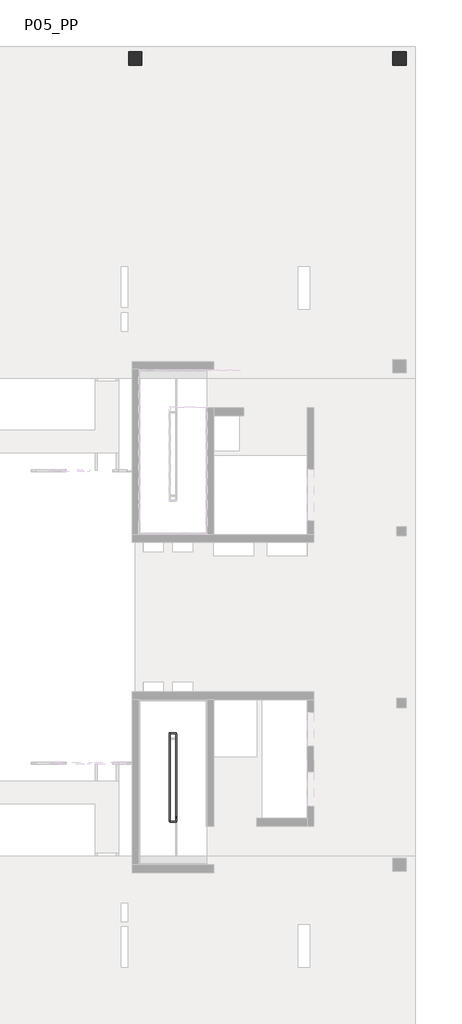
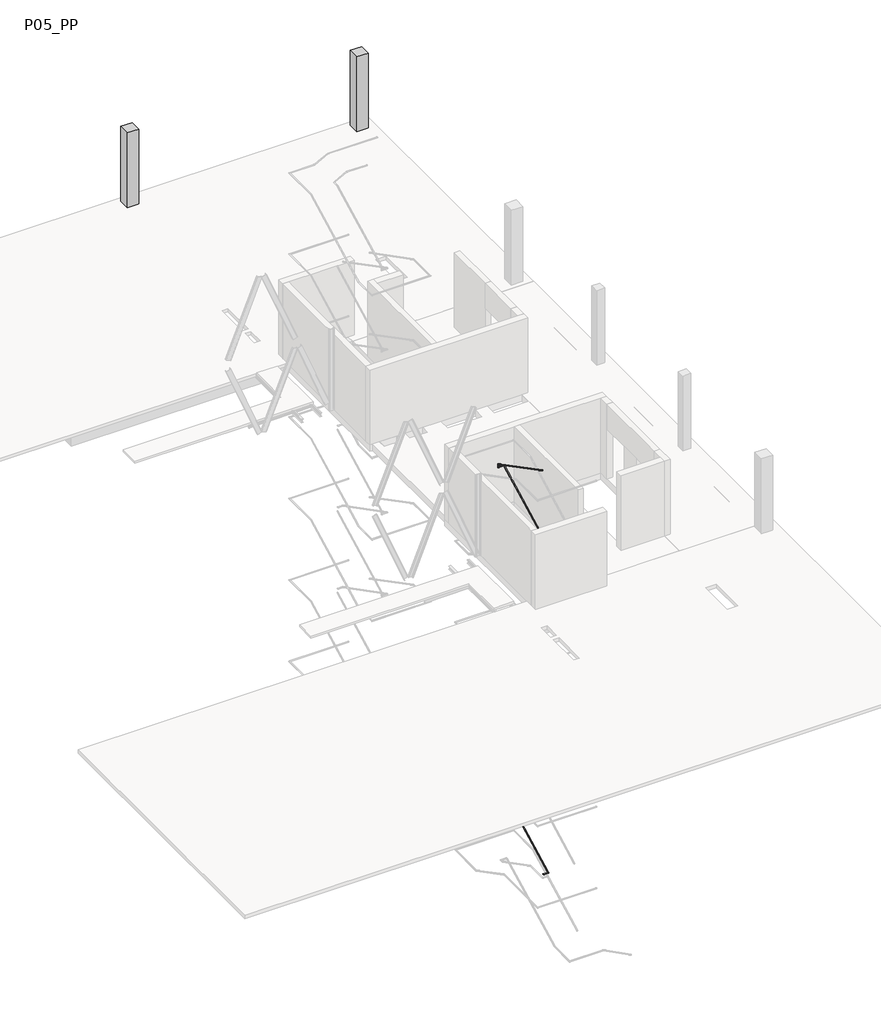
# One storey, part 4 of 7: 7 beams, 2 columns, 1 railing.
"""IFC4 building model written with IfcOpenShell, lengths in millimetres."""

from ifc_helpers import new_model, si_unit, frame, origin, place, context, project, spatial, polyline, circle_curve, ellipse_curve, outline, extrude, faceted_brep, element, save
from ifc_brep_helpers import plane_surface, cylinder_surface, advanced_brep

model = new_model("IFC4")

# Units and contexts
model_context = context("Model", 3, world=origin())
ifc_project = project(units=[si_unit("LENGTHUNIT", "METRE", prefix="MILLI")], contexts=[model_context])

# Site, building, storey
site = spatial("IfcSite", under=ifc_project)
building = spatial("IfcBuilding", under=site)
storey = spatial("IfcBuildingStorey", under=building, Name="P05_PP", Elevation=26160.0)

# Beams
placement = place(None, origin())
element("IfcBeam", 1, ObjectType="M_Concrete-Rectangular Beam : 1640 x 550mm", at=placement, inside=storey, context=model_context, shape_type="Brep", body=[
    faceted_brep([(-4553.6343046, 26089.4144807, 25610.0), (-4553.6343046, 24589.4144807, 25610.0), (-4553.6343046, 15039.4134441, 25610.0), (-4553.6343046, 15039.4134441, 26010.0), (-4553.6343046, 24589.4144807, 26010.0), (-4553.6343046, 26089.4144807, 26010.0), (-2913.6343046, 15039.4134441, 25610.0), (-2913.6343046, 26089.4144807, 25610.0), (-3266.6679368, 25389.4709171, 25610.0), (-3266.6679366, 25889.4709171, 25610.0), (-3766.6679366, 25889.4709173, 25610.0), (-3766.6679368, 25389.4709173, 25610.0), (-2913.6343046, 26089.4144807, 26010.0), (-2913.6343046, 15039.4134441, 26010.0), (-3266.6679368, 25389.4709171, 25860.0), (-3266.6679366, 25889.4709171, 25860.0), (-3766.6679368, 25389.4709173, 25860.0), (-3766.6679366, 25889.4709173, 25860.0)], [[[0, 1, 2, 3, 4, 5]], [[6, 2, 1, 0, 7], [8, 9, 10, 11]], [[6, 7, 12, 13]], [[2, 6, 13, 3]], [[7, 0, 5, 12]], [[14, 15, 9, 8]], [[16, 14, 8, 11]], [[17, 16, 11, 10]], [[15, 17, 10, 9]], [[15, 14, 16, 17]], [[5, 4, 3, 13, 12]]]),
])
element("IfcBeam", 2, ObjectType="M_Concrete-Rectangular Beam : 400 x 550mm", at=placement, inside=storey, context=model_context, shape_type="SweptSolid", body=[
    extrude(outline(polyline([(-14149.604161, 15039.4134441), (-14549.604161, 15039.4134441), (-14549.604161, 24589.4144807), (-14149.604161, 24589.4144807), (-14149.604161, 15039.4134441)])), frame((0.0, 0.0, 25610.0), z_axis=(0.0, 0.0, 1.0), x_axis=(1.0, 0.0, 0.0)), (0.0, 0.0, 1.0), 400.0),
])
element("IfcBeam", 3, ObjectType="M_Concrete-Rectangular Beam : 400 x 550mm", at=placement, inside=storey, context=model_context, shape_type="SweptSolid", body=[
    extrude(outline(polyline([(-12482.9374977, 15039.4134441), (-12882.9374977, 15039.4134441), (-12882.9374977, 24589.4144807), (-12482.9374977, 24589.4144807), (-12482.9374977, 15039.4134441)])), frame((0.0, 0.0, 25610.0), z_axis=(0.0, 0.0, 1.0), x_axis=(1.0, 0.0, 0.0)), (0.0, 0.0, 1.0), 400.0),
])
element("IfcBeam", 4, ObjectType="M_Concrete-Rectangular Beam : 400 x 550mm", at=placement, inside=storey, context=model_context, shape_type="SweptSolid", body=[
    extrude(outline(polyline([(-10816.2708336, 15039.4134441), (-11216.2708336, 15039.4134441), (-11216.2708336, 24589.4144807), (-10816.2708336, 24589.4144807), (-10816.2708336, 15039.4134441)])), frame((0.0, 0.0, 25610.0), z_axis=(0.0, 0.0, 1.0), x_axis=(1.0, 0.0, 0.0)), (0.0, 0.0, 1.0), 400.0),
])
element("IfcBeam", 5, ObjectType="M_Concrete-Rectangular Beam : 400 x 550mm", at=placement, inside=storey, context=model_context, shape_type="SweptSolid", body=[
    extrude(outline(polyline([(-9149.6041702, 15039.4134441), (-9549.6041702, 15039.4134441), (-9549.6041702, 24589.4144807), (-9149.6041702, 24589.4144807), (-9149.6041702, 15039.4134441)])), frame((0.0, 0.0, 25610.0), z_axis=(0.0, 0.0, 1.0), x_axis=(1.0, 0.0, 0.0)), (0.0, 0.0, 1.0), 400.0),
])
element("IfcBeam", 6, ObjectType="M_Concrete-Rectangular Beam : 400 x 550mm", at=placement, inside=storey, context=model_context, shape_type="SweptSolid", body=[
    extrude(outline(polyline([(-7482.9375051, 15039.4134441), (-7882.9375051, 15039.4134441), (-7882.9375051, 24589.4144807), (-7482.9375051, 24589.4144807), (-7482.9375051, 15039.4134441)])), frame((0.0, 0.0, 25610.0), z_axis=(0.0, 0.0, 1.0), x_axis=(1.0, 0.0, 0.0)), (0.0, 0.0, 1.0), 400.0),
])
element("IfcBeam", 7, ObjectType="M_Concrete-Rectangular Beam : 400 x 550mm", at=placement, inside=storey, context=model_context, shape_type="SweptSolid", body=[
    extrude(outline(polyline([(-5816.2708415, 15039.4134441), (-6216.2708415, 15039.4134441), (-6216.2708415, 24589.4144807), (-5816.2708415, 24589.4144807), (-5816.2708415, 15039.4134441)])), frame((0.0, 0.0, 25610.0), z_axis=(0.0, 0.0, 1.0), x_axis=(1.0, 0.0, 0.0)), (0.0, 0.0, 1.0), 400.0),
])

# Columns
element("IfcColumn", 8, ObjectType="Concrete-Rectangular-Column : Pilar_Rectangular-Formigo-500x500", at=placement, inside=storey, context=model_context, shape_type="Brep", body=[
    faceted_brep([(-3265.9143649, 25889.5088776, 26160.0), (-3265.9143674, 25389.5088776, 26160.0), (-3765.9143674, 25389.5088801, 26160.0), (-3765.9143649, 25889.5088801, 26160.0), (-3265.9143649, 25889.5088776, 29610.0), (-3265.9143674, 25389.5088776, 29610.0), (-3265.9143674, 25389.5088776, 29360.0), (-3265.9143649, 25889.5088776, 29360.0), (-3765.9143674, 25389.5088801, 29610.0), (-3765.9143674, 25389.5088801, 29360.0), (-3765.9143649, 25889.5088801, 29610.0), (-3765.9143649, 25889.5088801, 29360.0)], [[[0, 1, 2, 3]], [[4, 5, 6, 1, 0, 7]], [[5, 8, 9, 2, 1, 6]], [[8, 10, 11, 3, 2, 9]], [[10, 4, 7, 0, 3, 11]], [[4, 10, 8, 5]]]),
])
element("IfcColumn", 9, ObjectType="Concrete-Rectangular-Column : Pilar_Rectangular-Formigo-500x500", at=placement, inside=storey, context=model_context, shape_type="Brep", body=[
    faceted_brep([(-13265.9144127, 25889.5088736, 26160.0), (-13265.9144136, 25389.5088736, 26160.0), (-13765.9144136, 25389.5088746, 26160.0), (-13765.9144127, 25889.5088746, 26160.0), (-13265.9144127, 25889.5088736, 29610.0), (-13265.9144136, 25389.5088736, 29610.0), (-13265.9144136, 25389.5088736, 29360.0), (-13265.9144127, 25889.5088736, 29360.0), (-13765.9144136, 25389.5088746, 29610.0), (-13765.9144136, 25389.5088746, 29360.0), (-13765.9144127, 25889.5088746, 29610.0), (-13765.9144127, 25889.5088746, 29360.0)], [[[0, 1, 2, 3]], [[4, 5, 6, 1, 0, 7]], [[5, 8, 9, 2, 1, 6]], [[8, 10, 11, 3, 2, 9]], [[10, 4, 7, 0, 3, 11]], [[4, 10, 8, 5]]]),
])

# Railing
element("IfcRailing", 10, ObjectType="900mm_Pipe_Top Rail", at=placement, inside=storey, context=model_context, shape_type="AdvancedBrep", body=[
    advanced_brep(
    [(-12190.3216429, -3280.1011462, 27296.2500003), (-12190.3216429, -3240.1011462, 27296.2500003), (-11965.2146087, -3280.1011462, 27296.2500003), (-11965.2146087, -3240.1011462, 27296.2500003)],
    [
        (0, 1, circle_curve(frame((-12190.3216429, -3260.1011462, 27296.2500003), z_axis=(-1.0, 0.0, 0.0), x_axis=(0.0, 1.0, 0.0)), 20.0)),
        (1, 0, circle_curve(frame((-12190.3216429, -3260.1011462, 27296.2500003), z_axis=(-1.0, 0.0, 0.0), x_axis=(0.0, 1.0, 0.0)), 20.0)),
        (2, 3, circle_curve(frame((-11965.2146087, -3260.1011462, 27296.2500003), z_axis=(1.0, 0.0, 0.0), x_axis=(0.0, 1.0, 0.0)), 20.0)),
        (3, 2, circle_curve(frame((-11965.2146087, -3260.1011462, 27296.2500003), z_axis=(1.0, 0.0, 0.0), x_axis=(0.0, 1.0, 0.0)), 20.0)),
        (0, 2),
        (3, 1),
    ],
    [
        plane_surface(frame((-12190.3216429, -3260.1011462, 27316.2500003), z_axis=(-1.0, 0.0, 0.0), x_axis=(0.0, 1.0, 0.0))),
        plane_surface(frame((-11965.2146087, -3260.1011462, 27316.2500003), z_axis=(1.0, 0.0, 0.0), x_axis=(0.0, 1.0, 0.0))),
        cylinder_surface(frame((-12190.3216429, -3260.1011462, 27296.2500003), z_axis=(-1.0, 0.0, 0.0), x_axis=(0.0, 1.0, 0.0)), 20.0),
    ],
    [
        (0, [[1, 2]]),
        (1, [[3, 4]]),
        (2, [[-1, 5, -4, 6]]),
        (2, [[-2, -6, -3, -5]]),
    ],
),
    advanced_brep(
    [(-11965.2146087, 109.8988538, 29015.0000003), (-11965.2146087, 69.8988538, 29015.0000003), (-12215.3216429, 109.8988538, 29015.0000003), (-12215.3216429, 69.8988538, 29015.0000003)],
    [
        (0, 1, circle_curve(frame((-11965.2146087, 89.8988538, 29015.0000003), z_axis=(1.0, 0.0, 0.0), x_axis=(0.0, -1.0, 0.0)), 20.0)),
        (1, 0, circle_curve(frame((-11965.2146087, 89.8988538, 29015.0000003), z_axis=(1.0, 0.0, 0.0), x_axis=(0.0, -1.0, 0.0)), 20.0)),
        (2, 3, ellipse_curve(frame((-12215.3216429, 89.8988538, 29015.0000003), z_axis=(-0.7071067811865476, 0.0, 0.7071067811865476), x_axis=(0.7071067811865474, 0.0, 0.7071067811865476)), 28.2842712, 20.0)),
        (3, 2, ellipse_curve(frame((-12215.3216429, 89.8988538, 29015.0000003), z_axis=(-0.7071067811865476, 0.0, 0.7071067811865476), x_axis=(0.7071067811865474, 0.0, 0.7071067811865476)), 28.2842712, 20.0)),
        (0, 2),
        (3, 1),
    ],
    [
        plane_surface(frame((-11965.2146087, 89.8988538, 29035.0000003), z_axis=(1.0, 0.0, 0.0), x_axis=(0.0, -1.0, 0.0))),
        plane_surface(frame((-12195.3216429, 89.8988538, 29035.0000003), z_axis=(-0.7071067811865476, 0.0, 0.7071067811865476), x_axis=(0.7071067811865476, 0.0, 0.7071067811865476))),
        cylinder_surface(frame((-11965.2146087, 89.8988538, 29015.0000003), z_axis=(1.0, 0.0, 0.0), x_axis=(0.0, -1.0, 0.0)), 20.0),
    ],
    [
        (0, [[1, 2]]),
        (1, [[3, 4]]),
        (2, [[-1, 5, -4, 6]]),
        (2, [[-2, -6, -3, -5]]),
    ],
),
    advanced_brep(
    [(-12235.3216429, 89.8988538, 29155.6790684), (-12195.3216429, 89.8988538, 29155.6790684), (-12235.3216429, -3235.1011462, 30887.4499018), (-12195.3216429, -3235.1011462, 30887.4499018)],
    [
        (0, 1, ellipse_curve(frame((-12215.3216429, 89.8988538, 29155.6790684), z_axis=(0.0, 0.5186837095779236, -0.8549662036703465), x_axis=(0.0, 0.8549662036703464, 0.518683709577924)), 23.3927375, 20.0)),
        (1, 0, ellipse_curve(frame((-12215.3216429, 89.8988538, 29155.6790684), z_axis=(0.0, 0.5186837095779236, -0.8549662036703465), x_axis=(0.0, 0.8549662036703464, 0.518683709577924)), 23.3927375, 20.0)),
        (2, 3, ellipse_curve(frame((-12215.3216429, -3235.1011462, 30887.4499018), z_axis=(0.0, -1.0, 0.0), x_axis=(0.0, 0.0, -1.0)), 22.5500985, 20.0)),
        (3, 2, ellipse_curve(frame((-12215.3216429, -3235.1011462, 30887.4499018), z_axis=(0.0, -1.0, 0.0), x_axis=(0.0, 0.0, -1.0)), 22.5500985, 20.0)),
        (0, 2),
        (3, 1),
    ],
    [
        plane_surface(frame((-12215.3216429, 109.8988538, 29167.8125003), z_axis=(0.0, 0.5186837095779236, -0.8549662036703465), x_axis=(1.0, 0.0, 0.0))),
        plane_surface(frame((-12215.3216429, -3235.1011462, 30910.0000003), z_axis=(0.0, -1.0, 0.0), x_axis=(0.0, 0.0, -1.0))),
        cylinder_surface(frame((-12215.3216429, 100.6601654, 29150.0742186), z_axis=(0.0, 0.8869140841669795, -0.46193441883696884), x_axis=(1.0, 0.0, 0.0)), 20.0),
    ],
    [
        (0, [[1, 2]]),
        (1, [[3, 4]]),
        (2, [[-1, 5, -4, 6]]),
        (2, [[-2, -6, -3, -5]]),
    ],
),
    advanced_brep(
    [(-11945.2146087, -3235.1011462, 27293.6999018), (-11985.2146087, -3235.1011462, 27293.6999018), (-11945.2146087, 64.8988538, 29012.4499018), (-11985.2146087, 64.8988538, 29012.4499018)],
    [
        (0, 1, ellipse_curve(frame((-11965.2146087, -3235.1011462, 27293.6999018), z_axis=(0.0, -1.0, 0.0), x_axis=(0.0, 0.0, -1.0)), 22.5500985, 20.0)),
        (1, 0, ellipse_curve(frame((-11965.2146087, -3235.1011462, 27293.6999018), z_axis=(0.0, -1.0, 0.0), x_axis=(0.0, 0.0, -1.0)), 22.5500985, 20.0)),
        (2, 3, ellipse_curve(frame((-11965.2146087, 64.8988538, 29012.4499018), z_axis=(0.0, 1.0, 0.0), x_axis=(0.0, 0.0, -1.0)), 22.5500985, 20.0)),
        (3, 2, ellipse_curve(frame((-11965.2146087, 64.8988538, 29012.4499018), z_axis=(0.0, 1.0, 0.0), x_axis=(0.0, 0.0, -1.0)), 22.5500985, 20.0)),
        (0, 2),
        (3, 1),
    ],
    [
        plane_surface(frame((-11965.2146087, -3235.1011462, 27316.2500003), z_axis=(0.0, -1.0, 0.0), x_axis=(0.0, 0.0, 1.0))),
        plane_surface(frame((-11965.2146087, 64.8988538, 29035.0000003), z_axis=(0.0, 1.0, 0.0), x_axis=(0.0, 0.0, 1.0))),
        cylinder_surface(frame((-11965.2146087, -3225.8624578, 27298.5117186), z_axis=(0.0, -0.8869140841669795, -0.4619344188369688), x_axis=(-1.0, 0.0, 0.0)), 20.0),
    ],
    [
        (0, [[1, 2]]),
        (1, [[3, 4]]),
        (2, [[-1, 5, -4, 6]]),
        (2, [[-2, -6, -3, -5]]),
    ],
),
    advanced_brep(
    [(-12215.3216429, 109.8988538, 29015.0000003), (-12215.3216429, 69.8988538, 29015.0000003), (-12215.3216429, 109.8988538, 29167.8125003), (-12215.3216429, 69.8988538, 29143.5456365)],
    [
        (0, 1, ellipse_curve(frame((-12215.3216429, 89.8988538, 29015.0000003), z_axis=(0.7071067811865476, 0.0, -0.7071067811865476), x_axis=(-0.7071067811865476, 0.0, -0.7071067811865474)), 28.2842712, 20.0)),
        (1, 0, ellipse_curve(frame((-12215.3216429, 89.8988538, 29015.0000003), z_axis=(0.7071067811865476, 0.0, -0.7071067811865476), x_axis=(-0.7071067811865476, 0.0, -0.7071067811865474)), 28.2842712, 20.0)),
        (2, 3, ellipse_curve(frame((-12215.3216429, 89.8988538, 29155.6790684), z_axis=(0.0, -0.5186837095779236, 0.8549662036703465), x_axis=(0.0, -0.8549662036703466, -0.5186837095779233)), 23.3927375, 20.0)),
        (3, 2, ellipse_curve(frame((-12215.3216429, 89.8988538, 29155.6790684), z_axis=(0.0, -0.5186837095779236, 0.8549662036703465), x_axis=(0.0, -0.8549662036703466, -0.5186837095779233)), 23.3927375, 20.0)),
        (0, 2),
        (3, 1),
    ],
    [
        plane_surface(frame((-12215.3216429, 89.8988538, 29015.0000003), z_axis=(0.7071067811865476, 0.0, -0.7071067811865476), x_axis=(0.7071067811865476, 0.0, 0.7071067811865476))),
        plane_surface(frame((-12215.3216429, 89.8988538, 29155.6790684), z_axis=(0.0, -0.5186837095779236, 0.8549662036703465), x_axis=(1.0, 0.0, 0.0))),
        cylinder_surface(frame((-12215.3216429, 89.8988538, 29015.0000003), z_axis=(0.0, 0.0, -1.0), x_axis=(0.0, -1.0, 0.0)), 20.0),
    ],
    [
        (0, [[1, 2]]),
        (1, [[3, 4]]),
        (2, [[-1, 5, -4, 6]]),
        (2, [[-2, -6, -3, -5]]),
    ],
),
    advanced_brep(
    [(-12190.3216429, -3280.1011462, 23546.2500003), (-12190.3216429, -3240.1011462, 23546.2500003), (-11965.2146087, -3280.1011462, 23546.2500003), (-11965.2146087, -3240.1011462, 23546.2500003)],
    [
        (0, 1, circle_curve(frame((-12190.3216429, -3260.1011462, 23546.2500003), z_axis=(-1.0, 0.0, 0.0), x_axis=(0.0, 1.0, 0.0)), 20.0)),
        (1, 0, circle_curve(frame((-12190.3216429, -3260.1011462, 23546.2500003), z_axis=(-1.0, 0.0, 0.0), x_axis=(0.0, 1.0, 0.0)), 20.0)),
        (2, 3, circle_curve(frame((-11965.2146087, -3260.1011462, 23546.2500003), z_axis=(1.0, 0.0, 0.0), x_axis=(0.0, 1.0, 0.0)), 20.0)),
        (3, 2, circle_curve(frame((-11965.2146087, -3260.1011462, 23546.2500003), z_axis=(1.0, 0.0, 0.0), x_axis=(0.0, 1.0, 0.0)), 20.0)),
        (0, 2),
        (3, 1),
    ],
    [
        plane_surface(frame((-12190.3216429, -3260.1011462, 23566.2500003), z_axis=(-1.0, 0.0, 0.0), x_axis=(0.0, 1.0, 0.0))),
        plane_surface(frame((-11965.2146087, -3260.1011462, 23566.2500003), z_axis=(1.0, 0.0, 0.0), x_axis=(0.0, 1.0, 0.0))),
        cylinder_surface(frame((-12190.3216429, -3260.1011462, 23546.2500003), z_axis=(-1.0, 0.0, 0.0), x_axis=(0.0, 1.0, 0.0)), 20.0),
    ],
    [
        (0, [[1, 2]]),
        (1, [[3, 4]]),
        (2, [[-1, 5, -4, 6]]),
        (2, [[-2, -6, -3, -5]]),
    ],
),
    advanced_brep(
    [(-11965.2146087, 109.8988538, 25265.0000003), (-11965.2146087, 69.8988538, 25265.0000003), (-12215.3216429, 109.8988538, 25265.0000003), (-12215.3216429, 69.8988538, 25265.0000003)],
    [
        (0, 1, circle_curve(frame((-11965.2146087, 89.8988538, 25265.0000003), z_axis=(1.0, 0.0, 0.0), x_axis=(0.0, -1.0, 0.0)), 20.0)),
        (1, 0, circle_curve(frame((-11965.2146087, 89.8988538, 25265.0000003), z_axis=(1.0, 0.0, 0.0), x_axis=(0.0, -1.0, 0.0)), 20.0)),
        (2, 3, ellipse_curve(frame((-12215.3216429, 89.8988538, 25265.0000003), z_axis=(-0.7071067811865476, 0.0, 0.7071067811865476), x_axis=(0.7071067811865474, 0.0, 0.7071067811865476)), 28.2842712, 20.0)),
        (3, 2, ellipse_curve(frame((-12215.3216429, 89.8988538, 25265.0000003), z_axis=(-0.7071067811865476, 0.0, 0.7071067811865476), x_axis=(0.7071067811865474, 0.0, 0.7071067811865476)), 28.2842712, 20.0)),
        (0, 2),
        (3, 1),
    ],
    [
        plane_surface(frame((-11965.2146087, 89.8988538, 25285.0000003), z_axis=(1.0, 0.0, 0.0), x_axis=(0.0, -1.0, 0.0))),
        plane_surface(frame((-12195.3216429, 89.8988538, 25285.0000003), z_axis=(-0.7071067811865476, 0.0, 0.7071067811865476), x_axis=(0.7071067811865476, 0.0, 0.7071067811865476))),
        cylinder_surface(frame((-11965.2146087, 89.8988538, 25265.0000003), z_axis=(1.0, 0.0, 0.0), x_axis=(0.0, -1.0, 0.0)), 20.0),
    ],
    [
        (0, [[1, 2]]),
        (1, [[3, 4]]),
        (2, [[-1, 5, -4, 6]]),
        (2, [[-2, -6, -3, -5]]),
    ],
),
    advanced_brep(
    [(-12235.3216429, 89.8988538, 25405.6790684), (-12195.3216429, 89.8988538, 25405.6790684), (-12235.3216429, -3235.1011462, 27137.4499018), (-12195.3216429, -3235.1011462, 27137.4499018)],
    [
        (0, 1, ellipse_curve(frame((-12215.3216429, 89.8988538, 25405.6790684), z_axis=(0.0, 0.5186837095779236, -0.8549662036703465), x_axis=(0.0, 0.8549662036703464, 0.518683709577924)), 23.3927375, 20.0)),
        (1, 0, ellipse_curve(frame((-12215.3216429, 89.8988538, 25405.6790684), z_axis=(0.0, 0.5186837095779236, -0.8549662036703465), x_axis=(0.0, 0.8549662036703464, 0.518683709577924)), 23.3927375, 20.0)),
        (2, 3, ellipse_curve(frame((-12215.3216429, -3235.1011462, 27137.4499018), z_axis=(0.0, -1.0, 0.0), x_axis=(0.0, 0.0, -1.0)), 22.5500985, 20.0)),
        (3, 2, ellipse_curve(frame((-12215.3216429, -3235.1011462, 27137.4499018), z_axis=(0.0, -1.0, 0.0), x_axis=(0.0, 0.0, -1.0)), 22.5500985, 20.0)),
        (0, 2),
        (3, 1),
    ],
    [
        plane_surface(frame((-12215.3216429, 109.8988538, 25417.8125003), z_axis=(0.0, 0.5186837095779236, -0.8549662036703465), x_axis=(1.0, 0.0, 0.0))),
        plane_surface(frame((-12215.3216429, -3235.1011462, 27160.0000003), z_axis=(0.0, -1.0, 0.0), x_axis=(0.0, 0.0, -1.0))),
        cylinder_surface(frame((-12215.3216429, 100.6601654, 25400.0742186), z_axis=(0.0, 0.8869140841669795, -0.46193441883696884), x_axis=(1.0, 0.0, 0.0)), 20.0),
    ],
    [
        (0, [[1, 2]]),
        (1, [[3, 4]]),
        (2, [[-1, 5, -4, 6]]),
        (2, [[-2, -6, -3, -5]]),
    ],
),
    advanced_brep(
    [(-11945.2146087, -3235.1011462, 23543.6999018), (-11985.2146087, -3235.1011462, 23543.6999018), (-11945.2146087, 64.8988538, 25262.4499018), (-11985.2146087, 64.8988538, 25262.4499018)],
    [
        (0, 1, ellipse_curve(frame((-11965.2146087, -3235.1011462, 23543.6999018), z_axis=(0.0, -1.0, 0.0), x_axis=(0.0, 0.0, -1.0)), 22.5500985, 20.0)),
        (1, 0, ellipse_curve(frame((-11965.2146087, -3235.1011462, 23543.6999018), z_axis=(0.0, -1.0, 0.0), x_axis=(0.0, 0.0, -1.0)), 22.5500985, 20.0)),
        (2, 3, ellipse_curve(frame((-11965.2146087, 64.8988538, 25262.4499018), z_axis=(0.0, 1.0, 0.0), x_axis=(0.0, 0.0, -1.0)), 22.5500985, 20.0)),
        (3, 2, ellipse_curve(frame((-11965.2146087, 64.8988538, 25262.4499018), z_axis=(0.0, 1.0, 0.0), x_axis=(0.0, 0.0, -1.0)), 22.5500985, 20.0)),
        (0, 2),
        (3, 1),
    ],
    [
        plane_surface(frame((-11965.2146087, -3235.1011462, 23566.2500003), z_axis=(0.0, -1.0, 0.0), x_axis=(0.0, 0.0, 1.0))),
        plane_surface(frame((-11965.2146087, 64.8988538, 25285.0000003), z_axis=(0.0, 1.0, 0.0), x_axis=(0.0, 0.0, 1.0))),
        cylinder_surface(frame((-11965.2146087, -3225.8624578, 23548.5117186), z_axis=(0.0, -0.8869140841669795, -0.4619344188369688), x_axis=(-1.0, 0.0, 0.0)), 20.0),
    ],
    [
        (0, [[1, 2]]),
        (1, [[3, 4]]),
        (2, [[-1, 5, -4, 6]]),
        (2, [[-2, -6, -3, -5]]),
    ],
),
    advanced_brep(
    [(-12215.3216429, 109.8988538, 25265.0000003), (-12215.3216429, 69.8988538, 25265.0000003), (-12215.3216429, 109.8988538, 25417.8125003), (-12215.3216429, 69.8988538, 25393.5456365)],
    [
        (0, 1, ellipse_curve(frame((-12215.3216429, 89.8988538, 25265.0000003), z_axis=(0.7071067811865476, 0.0, -0.7071067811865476), x_axis=(-0.7071067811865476, 0.0, -0.7071067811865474)), 28.2842712, 20.0)),
        (1, 0, ellipse_curve(frame((-12215.3216429, 89.8988538, 25265.0000003), z_axis=(0.7071067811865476, 0.0, -0.7071067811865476), x_axis=(-0.7071067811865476, 0.0, -0.7071067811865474)), 28.2842712, 20.0)),
        (2, 3, ellipse_curve(frame((-12215.3216429, 89.8988538, 25405.6790684), z_axis=(0.0, -0.5186837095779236, 0.8549662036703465), x_axis=(0.0, -0.8549662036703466, -0.5186837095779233)), 23.3927375, 20.0)),
        (3, 2, ellipse_curve(frame((-12215.3216429, 89.8988538, 25405.6790684), z_axis=(0.0, -0.5186837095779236, 0.8549662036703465), x_axis=(0.0, -0.8549662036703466, -0.5186837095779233)), 23.3927375, 20.0)),
        (0, 2),
        (3, 1),
    ],
    [
        plane_surface(frame((-12215.3216429, 89.8988538, 25265.0000003), z_axis=(0.7071067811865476, 0.0, -0.7071067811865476), x_axis=(0.7071067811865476, 0.0, 0.7071067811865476))),
        plane_surface(frame((-12215.3216429, 89.8988538, 25405.6790684), z_axis=(0.0, -0.5186837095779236, 0.8549662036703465), x_axis=(1.0, 0.0, 0.0))),
        cylinder_surface(frame((-12215.3216429, 89.8988538, 25265.0000003), z_axis=(0.0, 0.0, -1.0), x_axis=(0.0, -1.0, 0.0)), 20.0),
    ],
    [
        (0, [[1, 2]]),
        (1, [[3, 4]]),
        (2, [[-1, 5, -4, 6]]),
        (2, [[-2, -6, -3, -5]]),
    ],
),
    advanced_brep(
    [(-12190.3216429, -3280.1011462, 19796.2500003), (-12190.3216429, -3240.1011462, 19796.2500003), (-11965.2146087, -3280.1011462, 19796.2500003), (-11965.2146087, -3240.1011462, 19796.2500003)],
    [
        (0, 1, circle_curve(frame((-12190.3216429, -3260.1011462, 19796.2500003), z_axis=(-1.0, 0.0, 0.0), x_axis=(0.0, 1.0, 0.0)), 20.0)),
        (1, 0, circle_curve(frame((-12190.3216429, -3260.1011462, 19796.2500003), z_axis=(-1.0, 0.0, 0.0), x_axis=(0.0, 1.0, 0.0)), 20.0)),
        (2, 3, circle_curve(frame((-11965.2146087, -3260.1011462, 19796.2500003), z_axis=(1.0, 0.0, 0.0), x_axis=(0.0, 1.0, 0.0)), 20.0)),
        (3, 2, circle_curve(frame((-11965.2146087, -3260.1011462, 19796.2500003), z_axis=(1.0, 0.0, 0.0), x_axis=(0.0, 1.0, 0.0)), 20.0)),
        (0, 2),
        (3, 1),
    ],
    [
        plane_surface(frame((-12190.3216429, -3260.1011462, 19816.2500003), z_axis=(-1.0, 0.0, 0.0), x_axis=(0.0, 1.0, 0.0))),
        plane_surface(frame((-11965.2146087, -3260.1011462, 19816.2500003), z_axis=(1.0, 0.0, 0.0), x_axis=(0.0, 1.0, 0.0))),
        cylinder_surface(frame((-12190.3216429, -3260.1011462, 19796.2500003), z_axis=(-1.0, 0.0, 0.0), x_axis=(0.0, 1.0, 0.0)), 20.0),
    ],
    [
        (0, [[1, 2]]),
        (1, [[3, 4]]),
        (2, [[-1, 5, -4, 6]]),
        (2, [[-2, -6, -3, -5]]),
    ],
),
    advanced_brep(
    [(-11965.2146087, 109.8988538, 21515.0000003), (-11965.2146087, 69.8988538, 21515.0000003), (-12215.3216429, 109.8988538, 21515.0000003), (-12215.3216429, 69.8988538, 21515.0000003)],
    [
        (0, 1, circle_curve(frame((-11965.2146087, 89.8988538, 21515.0000003), z_axis=(1.0, 0.0, 0.0), x_axis=(0.0, -1.0, 0.0)), 20.0)),
        (1, 0, circle_curve(frame((-11965.2146087, 89.8988538, 21515.0000003), z_axis=(1.0, 0.0, 0.0), x_axis=(0.0, -1.0, 0.0)), 20.0)),
        (2, 3, ellipse_curve(frame((-12215.3216429, 89.8988538, 21515.0000003), z_axis=(-0.7071067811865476, 0.0, 0.7071067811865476), x_axis=(0.7071067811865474, 0.0, 0.7071067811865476)), 28.2842712, 20.0)),
        (3, 2, ellipse_curve(frame((-12215.3216429, 89.8988538, 21515.0000003), z_axis=(-0.7071067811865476, 0.0, 0.7071067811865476), x_axis=(0.7071067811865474, 0.0, 0.7071067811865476)), 28.2842712, 20.0)),
        (0, 2),
        (3, 1),
    ],
    [
        plane_surface(frame((-11965.2146087, 89.8988538, 21535.0000003), z_axis=(1.0, 0.0, 0.0), x_axis=(0.0, -1.0, 0.0))),
        plane_surface(frame((-12195.3216429, 89.8988538, 21535.0000003), z_axis=(-0.7071067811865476, 0.0, 0.7071067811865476), x_axis=(0.7071067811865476, 0.0, 0.7071067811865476))),
        cylinder_surface(frame((-11965.2146087, 89.8988538, 21515.0000003), z_axis=(1.0, 0.0, 0.0), x_axis=(0.0, -1.0, 0.0)), 20.0),
    ],
    [
        (0, [[1, 2]]),
        (1, [[3, 4]]),
        (2, [[-1, 5, -4, 6]]),
        (2, [[-2, -6, -3, -5]]),
    ],
),
    advanced_brep(
    [(-12235.3216429, 89.8988538, 21655.6790684), (-12195.3216429, 89.8988538, 21655.6790684), (-12235.3216429, -3235.1011462, 23387.4499018), (-12195.3216429, -3235.1011462, 23387.4499018)],
    [
        (0, 1, ellipse_curve(frame((-12215.3216429, 89.8988538, 21655.6790684), z_axis=(0.0, 0.5186837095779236, -0.8549662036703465), x_axis=(0.0, 0.8549662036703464, 0.518683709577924)), 23.3927375, 20.0)),
        (1, 0, ellipse_curve(frame((-12215.3216429, 89.8988538, 21655.6790684), z_axis=(0.0, 0.5186837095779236, -0.8549662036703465), x_axis=(0.0, 0.8549662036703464, 0.518683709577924)), 23.3927375, 20.0)),
        (2, 3, ellipse_curve(frame((-12215.3216429, -3235.1011462, 23387.4499018), z_axis=(0.0, -1.0, 0.0), x_axis=(0.0, 0.0, -1.0)), 22.5500985, 20.0)),
        (3, 2, ellipse_curve(frame((-12215.3216429, -3235.1011462, 23387.4499018), z_axis=(0.0, -1.0, 0.0), x_axis=(0.0, 0.0, -1.0)), 22.5500985, 20.0)),
        (0, 2),
        (3, 1),
    ],
    [
        plane_surface(frame((-12215.3216429, 109.8988538, 21667.8125003), z_axis=(0.0, 0.5186837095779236, -0.8549662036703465), x_axis=(1.0, 0.0, 0.0))),
        plane_surface(frame((-12215.3216429, -3235.1011462, 23410.0000003), z_axis=(0.0, -1.0, 0.0), x_axis=(0.0, 0.0, -1.0))),
        cylinder_surface(frame((-12215.3216429, 100.6601654, 21650.0742186), z_axis=(0.0, 0.8869140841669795, -0.46193441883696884), x_axis=(1.0, 0.0, 0.0)), 20.0),
    ],
    [
        (0, [[1, 2]]),
        (1, [[3, 4]]),
        (2, [[-1, 5, -4, 6]]),
        (2, [[-2, -6, -3, -5]]),
    ],
),
    advanced_brep(
    [(-11945.2146087, -3235.1011462, 19793.6999018), (-11985.2146087, -3235.1011462, 19793.6999018), (-11945.2146087, 64.8988538, 21512.4499018), (-11985.2146087, 64.8988538, 21512.4499018)],
    [
        (0, 1, ellipse_curve(frame((-11965.2146087, -3235.1011462, 19793.6999018), z_axis=(0.0, -1.0, 0.0), x_axis=(0.0, 0.0, -1.0)), 22.5500985, 20.0)),
        (1, 0, ellipse_curve(frame((-11965.2146087, -3235.1011462, 19793.6999018), z_axis=(0.0, -1.0, 0.0), x_axis=(0.0, 0.0, -1.0)), 22.5500985, 20.0)),
        (2, 3, ellipse_curve(frame((-11965.2146087, 64.8988538, 21512.4499018), z_axis=(0.0, 1.0, 0.0), x_axis=(0.0, 0.0, -1.0)), 22.5500985, 20.0)),
        (3, 2, ellipse_curve(frame((-11965.2146087, 64.8988538, 21512.4499018), z_axis=(0.0, 1.0, 0.0), x_axis=(0.0, 0.0, -1.0)), 22.5500985, 20.0)),
        (0, 2),
        (3, 1),
    ],
    [
        plane_surface(frame((-11965.2146087, -3235.1011462, 19816.2500003), z_axis=(0.0, -1.0, 0.0), x_axis=(0.0, 0.0, 1.0))),
        plane_surface(frame((-11965.2146087, 64.8988538, 21535.0000003), z_axis=(0.0, 1.0, 0.0), x_axis=(0.0, 0.0, 1.0))),
        cylinder_surface(frame((-11965.2146087, -3225.8624578, 19798.5117186), z_axis=(0.0, -0.8869140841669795, -0.4619344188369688), x_axis=(-1.0, 0.0, 0.0)), 20.0),
    ],
    [
        (0, [[1, 2]]),
        (1, [[3, 4]]),
        (2, [[-1, 5, -4, 6]]),
        (2, [[-2, -6, -3, -5]]),
    ],
),
    advanced_brep(
    [(-12215.3216429, 109.8988538, 21515.0000003), (-12215.3216429, 69.8988538, 21515.0000003), (-12215.3216429, 109.8988538, 21667.8125003), (-12215.3216429, 69.8988538, 21643.5456365)],
    [
        (0, 1, ellipse_curve(frame((-12215.3216429, 89.8988538, 21515.0000003), z_axis=(0.7071067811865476, 0.0, -0.7071067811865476), x_axis=(-0.7071067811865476, 0.0, -0.7071067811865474)), 28.2842712, 20.0)),
        (1, 0, ellipse_curve(frame((-12215.3216429, 89.8988538, 21515.0000003), z_axis=(0.7071067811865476, 0.0, -0.7071067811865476), x_axis=(-0.7071067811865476, 0.0, -0.7071067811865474)), 28.2842712, 20.0)),
        (2, 3, ellipse_curve(frame((-12215.3216429, 89.8988538, 21655.6790684), z_axis=(0.0, -0.5186837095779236, 0.8549662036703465), x_axis=(0.0, -0.8549662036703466, -0.5186837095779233)), 23.3927375, 20.0)),
        (3, 2, ellipse_curve(frame((-12215.3216429, 89.8988538, 21655.6790684), z_axis=(0.0, -0.5186837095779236, 0.8549662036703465), x_axis=(0.0, -0.8549662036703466, -0.5186837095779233)), 23.3927375, 20.0)),
        (0, 2),
        (3, 1),
    ],
    [
        plane_surface(frame((-12215.3216429, 89.8988538, 21515.0000003), z_axis=(0.7071067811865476, 0.0, -0.7071067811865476), x_axis=(0.7071067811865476, 0.0, 0.7071067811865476))),
        plane_surface(frame((-12215.3216429, 89.8988538, 21655.6790684), z_axis=(0.0, -0.5186837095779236, 0.8549662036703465), x_axis=(1.0, 0.0, 0.0))),
        cylinder_surface(frame((-12215.3216429, 89.8988538, 21515.0000003), z_axis=(0.0, 0.0, -1.0), x_axis=(0.0, -1.0, 0.0)), 20.0),
    ],
    [
        (0, [[1, 2]]),
        (1, [[3, 4]]),
        (2, [[-1, 5, -4, 6]]),
        (2, [[-2, -6, -3, -5]]),
    ],
),
    advanced_brep(
    [(-12190.3216429, -3280.1011462, 16046.2500003), (-12190.3216429, -3240.1011462, 16046.2500003), (-11965.2146087, -3280.1011462, 16046.2500003), (-11965.2146087, -3240.1011462, 16046.2500003)],
    [
        (0, 1, circle_curve(frame((-12190.3216429, -3260.1011462, 16046.2500003), z_axis=(-1.0, 0.0, 0.0), x_axis=(0.0, 1.0, 0.0)), 20.0)),
        (1, 0, circle_curve(frame((-12190.3216429, -3260.1011462, 16046.2500003), z_axis=(-1.0, 0.0, 0.0), x_axis=(0.0, 1.0, 0.0)), 20.0)),
        (2, 3, circle_curve(frame((-11965.2146087, -3260.1011462, 16046.2500003), z_axis=(1.0, 0.0, 0.0), x_axis=(0.0, 1.0, 0.0)), 20.0)),
        (3, 2, circle_curve(frame((-11965.2146087, -3260.1011462, 16046.2500003), z_axis=(1.0, 0.0, 0.0), x_axis=(0.0, 1.0, 0.0)), 20.0)),
        (0, 2),
        (3, 1),
    ],
    [
        plane_surface(frame((-12190.3216429, -3260.1011462, 16066.2500003), z_axis=(-1.0, 0.0, 0.0), x_axis=(0.0, 1.0, 0.0))),
        plane_surface(frame((-11965.2146087, -3260.1011462, 16066.2500003), z_axis=(1.0, 0.0, 0.0), x_axis=(0.0, 1.0, 0.0))),
        cylinder_surface(frame((-12190.3216429, -3260.1011462, 16046.2500003), z_axis=(-1.0, 0.0, 0.0), x_axis=(0.0, 1.0, 0.0)), 20.0),
    ],
    [
        (0, [[1, 2]]),
        (1, [[3, 4]]),
        (2, [[-1, 5, -4, 6]]),
        (2, [[-2, -6, -3, -5]]),
    ],
),
    advanced_brep(
    [(-11965.2146087, 109.8988538, 17765.0000003), (-11965.2146087, 69.8988538, 17765.0000003), (-12215.3216429, 109.8988538, 17765.0000003), (-12215.3216429, 69.8988538, 17765.0000003)],
    [
        (0, 1, circle_curve(frame((-11965.2146087, 89.8988538, 17765.0000003), z_axis=(1.0, 0.0, 0.0), x_axis=(0.0, -1.0, 0.0)), 20.0)),
        (1, 0, circle_curve(frame((-11965.2146087, 89.8988538, 17765.0000003), z_axis=(1.0, 0.0, 0.0), x_axis=(0.0, -1.0, 0.0)), 20.0)),
        (2, 3, ellipse_curve(frame((-12215.3216429, 89.8988538, 17765.0000003), z_axis=(-0.7071067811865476, 0.0, 0.7071067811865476), x_axis=(0.7071067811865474, 0.0, 0.7071067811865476)), 28.2842712, 20.0)),
        (3, 2, ellipse_curve(frame((-12215.3216429, 89.8988538, 17765.0000003), z_axis=(-0.7071067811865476, 0.0, 0.7071067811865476), x_axis=(0.7071067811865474, 0.0, 0.7071067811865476)), 28.2842712, 20.0)),
        (0, 2),
        (3, 1),
    ],
    [
        plane_surface(frame((-11965.2146087, 89.8988538, 17785.0000003), z_axis=(1.0, 0.0, 0.0), x_axis=(0.0, -1.0, 0.0))),
        plane_surface(frame((-12195.3216429, 89.8988538, 17785.0000003), z_axis=(-0.7071067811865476, 0.0, 0.7071067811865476), x_axis=(0.7071067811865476, 0.0, 0.7071067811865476))),
        cylinder_surface(frame((-11965.2146087, 89.8988538, 17765.0000003), z_axis=(1.0, 0.0, 0.0), x_axis=(0.0, -1.0, 0.0)), 20.0),
    ],
    [
        (0, [[1, 2]]),
        (1, [[3, 4]]),
        (2, [[-1, 5, -4, 6]]),
        (2, [[-2, -6, -3, -5]]),
    ],
),
    advanced_brep(
    [(-12235.3216429, 89.8988538, 17905.6790684), (-12195.3216429, 89.8988538, 17905.6790684), (-12235.3216429, -3235.1011462, 19637.4499018), (-12195.3216429, -3235.1011462, 19637.4499018)],
    [
        (0, 1, ellipse_curve(frame((-12215.3216429, 89.8988538, 17905.6790684), z_axis=(0.0, 0.5186837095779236, -0.8549662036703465), x_axis=(0.0, 0.8549662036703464, 0.518683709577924)), 23.3927375, 20.0)),
        (1, 0, ellipse_curve(frame((-12215.3216429, 89.8988538, 17905.6790684), z_axis=(0.0, 0.5186837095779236, -0.8549662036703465), x_axis=(0.0, 0.8549662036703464, 0.518683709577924)), 23.3927375, 20.0)),
        (2, 3, ellipse_curve(frame((-12215.3216429, -3235.1011462, 19637.4499018), z_axis=(0.0, -1.0, 0.0), x_axis=(0.0, 0.0, -1.0)), 22.5500985, 20.0)),
        (3, 2, ellipse_curve(frame((-12215.3216429, -3235.1011462, 19637.4499018), z_axis=(0.0, -1.0, 0.0), x_axis=(0.0, 0.0, -1.0)), 22.5500985, 20.0)),
        (0, 2),
        (3, 1),
    ],
    [
        plane_surface(frame((-12215.3216429, 109.8988538, 17917.8125003), z_axis=(0.0, 0.5186837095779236, -0.8549662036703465), x_axis=(1.0, 0.0, 0.0))),
        plane_surface(frame((-12215.3216429, -3235.1011462, 19660.0000003), z_axis=(0.0, -1.0, 0.0), x_axis=(0.0, 0.0, -1.0))),
        cylinder_surface(frame((-12215.3216429, 100.6601654, 17900.0742186), z_axis=(0.0, 0.8869140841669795, -0.46193441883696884), x_axis=(1.0, 0.0, 0.0)), 20.0),
    ],
    [
        (0, [[1, 2]]),
        (1, [[3, 4]]),
        (2, [[-1, 5, -4, 6]]),
        (2, [[-2, -6, -3, -5]]),
    ],
),
    advanced_brep(
    [(-11945.2146087, -3235.1011462, 16043.6999018), (-11985.2146087, -3235.1011462, 16043.6999018), (-11945.2146087, 64.8988538, 17762.4499018), (-11985.2146087, 64.8988538, 17762.4499018)],
    [
        (0, 1, ellipse_curve(frame((-11965.2146087, -3235.1011462, 16043.6999018), z_axis=(0.0, -1.0, 0.0), x_axis=(0.0, 0.0, -1.0)), 22.5500985, 20.0)),
        (1, 0, ellipse_curve(frame((-11965.2146087, -3235.1011462, 16043.6999018), z_axis=(0.0, -1.0, 0.0), x_axis=(0.0, 0.0, -1.0)), 22.5500985, 20.0)),
        (2, 3, ellipse_curve(frame((-11965.2146087, 64.8988538, 17762.4499018), z_axis=(0.0, 1.0, 0.0), x_axis=(0.0, 0.0, -1.0)), 22.5500985, 20.0)),
        (3, 2, ellipse_curve(frame((-11965.2146087, 64.8988538, 17762.4499018), z_axis=(0.0, 1.0, 0.0), x_axis=(0.0, 0.0, -1.0)), 22.5500985, 20.0)),
        (0, 2),
        (3, 1),
    ],
    [
        plane_surface(frame((-11965.2146087, -3235.1011462, 16066.2500003), z_axis=(0.0, -1.0, 0.0), x_axis=(0.0, 0.0, 1.0))),
        plane_surface(frame((-11965.2146087, 64.8988538, 17785.0000003), z_axis=(0.0, 1.0, 0.0), x_axis=(0.0, 0.0, 1.0))),
        cylinder_surface(frame((-11965.2146087, -3225.8624578, 16048.5117186), z_axis=(0.0, -0.8869140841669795, -0.4619344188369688), x_axis=(-1.0, 0.0, 0.0)), 20.0),
    ],
    [
        (0, [[1, 2]]),
        (1, [[3, 4]]),
        (2, [[-1, 5, -4, 6]]),
        (2, [[-2, -6, -3, -5]]),
    ],
),
    advanced_brep(
    [(-12215.3216429, 109.8988538, 17765.0000003), (-12215.3216429, 69.8988538, 17765.0000003), (-12215.3216429, 109.8988538, 17917.8125003), (-12215.3216429, 69.8988538, 17893.5456365)],
    [
        (0, 1, ellipse_curve(frame((-12215.3216429, 89.8988538, 17765.0000003), z_axis=(0.7071067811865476, 0.0, -0.7071067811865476), x_axis=(-0.7071067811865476, 0.0, -0.7071067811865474)), 28.2842712, 20.0)),
        (1, 0, ellipse_curve(frame((-12215.3216429, 89.8988538, 17765.0000003), z_axis=(0.7071067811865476, 0.0, -0.7071067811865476), x_axis=(-0.7071067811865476, 0.0, -0.7071067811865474)), 28.2842712, 20.0)),
        (2, 3, ellipse_curve(frame((-12215.3216429, 89.8988538, 17905.6790684), z_axis=(0.0, -0.5186837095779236, 0.8549662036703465), x_axis=(0.0, -0.8549662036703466, -0.5186837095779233)), 23.3927375, 20.0)),
        (3, 2, ellipse_curve(frame((-12215.3216429, 89.8988538, 17905.6790684), z_axis=(0.0, -0.5186837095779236, 0.8549662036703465), x_axis=(0.0, -0.8549662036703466, -0.5186837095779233)), 23.3927375, 20.0)),
        (0, 2),
        (3, 1),
    ],
    [
        plane_surface(frame((-12215.3216429, 89.8988538, 17765.0000003), z_axis=(0.7071067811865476, 0.0, -0.7071067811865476), x_axis=(0.7071067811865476, 0.0, 0.7071067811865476))),
        plane_surface(frame((-12215.3216429, 89.8988538, 17905.6790684), z_axis=(0.0, -0.5186837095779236, 0.8549662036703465), x_axis=(1.0, 0.0, 0.0))),
        cylinder_surface(frame((-12215.3216429, 89.8988538, 17765.0000003), z_axis=(0.0, 0.0, -1.0), x_axis=(0.0, -1.0, 0.0)), 20.0),
    ],
    [
        (0, [[1, 2]]),
        (1, [[3, 4]]),
        (2, [[-1, 5, -4, 6]]),
        (2, [[-2, -6, -3, -5]]),
    ],
),
    advanced_brep(
    [(-12190.3216429, -3280.1011462, 12296.25), (-12190.3216429, -3240.1011462, 12296.25), (-11965.2146087, -3280.1011462, 12296.25), (-11965.2146087, -3240.1011462, 12296.25)],
    [
        (0, 1, circle_curve(frame((-12190.3216429, -3260.1011462, 12296.25), z_axis=(-1.0, 0.0, 0.0), x_axis=(0.0, 1.0, 0.0)), 20.0)),
        (1, 0, circle_curve(frame((-12190.3216429, -3260.1011462, 12296.25), z_axis=(-1.0, 0.0, 0.0), x_axis=(0.0, 1.0, 0.0)), 20.0)),
        (2, 3, circle_curve(frame((-11965.2146087, -3260.1011462, 12296.25), z_axis=(1.0, 0.0, 0.0), x_axis=(0.0, 1.0, 0.0)), 20.0)),
        (3, 2, circle_curve(frame((-11965.2146087, -3260.1011462, 12296.25), z_axis=(1.0, 0.0, 0.0), x_axis=(0.0, 1.0, 0.0)), 20.0)),
        (0, 2),
        (3, 1),
    ],
    [
        plane_surface(frame((-12190.3216429, -3260.1011462, 12316.25), z_axis=(-1.0, 0.0, 0.0), x_axis=(0.0, 1.0, 0.0))),
        plane_surface(frame((-11965.2146087, -3260.1011462, 12316.25), z_axis=(1.0, 0.0, 0.0), x_axis=(0.0, 1.0, 0.0))),
        cylinder_surface(frame((-12190.3216429, -3260.1011462, 12296.25), z_axis=(-1.0, 0.0, 0.0), x_axis=(0.0, 1.0, 0.0)), 20.0),
    ],
    [
        (0, [[1, 2]]),
        (1, [[3, 4]]),
        (2, [[-1, 5, -4, 6]]),
        (2, [[-2, -6, -3, -5]]),
    ],
),
    advanced_brep(
    [(-11965.2146087, 109.8988538, 14015.0), (-11965.2146087, 69.8988538, 14015.0), (-12215.3216429, 109.8988538, 14015.0), (-12215.3216429, 69.8988538, 14015.0)],
    [
        (0, 1, circle_curve(frame((-11965.2146087, 89.8988538, 14015.0), z_axis=(1.0, 0.0, 0.0), x_axis=(0.0, -1.0, 0.0)), 20.0)),
        (1, 0, circle_curve(frame((-11965.2146087, 89.8988538, 14015.0), z_axis=(1.0, 0.0, 0.0), x_axis=(0.0, -1.0, 0.0)), 20.0)),
        (2, 3, ellipse_curve(frame((-12215.3216429, 89.8988538, 14015.0), z_axis=(-0.7071067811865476, 0.0, 0.7071067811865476), x_axis=(0.7071067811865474, 0.0, 0.7071067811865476)), 28.2842712, 20.0)),
        (3, 2, ellipse_curve(frame((-12215.3216429, 89.8988538, 14015.0), z_axis=(-0.7071067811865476, 0.0, 0.7071067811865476), x_axis=(0.7071067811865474, 0.0, 0.7071067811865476)), 28.2842712, 20.0)),
        (0, 2),
        (3, 1),
    ],
    [
        plane_surface(frame((-11965.2146087, 89.8988538, 14035.0), z_axis=(1.0, 0.0, 0.0), x_axis=(0.0, -1.0, 0.0))),
        plane_surface(frame((-12195.3216429, 89.8988538, 14035.0), z_axis=(-0.7071067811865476, 0.0, 0.7071067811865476), x_axis=(0.7071067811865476, 0.0, 0.7071067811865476))),
        cylinder_surface(frame((-11965.2146087, 89.8988538, 14015.0), z_axis=(1.0, 0.0, 0.0), x_axis=(0.0, -1.0, 0.0)), 20.0),
    ],
    [
        (0, [[1, 2]]),
        (1, [[3, 4]]),
        (2, [[-1, 5, -4, 6]]),
        (2, [[-2, -6, -3, -5]]),
    ],
),
    advanced_brep(
    [(-12235.3216429, 89.8988538, 14155.6790681), (-12195.3216429, 89.8988538, 14155.6790681), (-12235.3216429, -3235.1011462, 15887.4499015), (-12195.3216429, -3235.1011462, 15887.4499015)],
    [
        (0, 1, ellipse_curve(frame((-12215.3216429, 89.8988538, 14155.6790681), z_axis=(0.0, 0.5186837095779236, -0.8549662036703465), x_axis=(0.0, 0.8549662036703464, 0.518683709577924)), 23.3927375, 20.0)),
        (1, 0, ellipse_curve(frame((-12215.3216429, 89.8988538, 14155.6790681), z_axis=(0.0, 0.5186837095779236, -0.8549662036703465), x_axis=(0.0, 0.8549662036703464, 0.518683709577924)), 23.3927375, 20.0)),
        (2, 3, ellipse_curve(frame((-12215.3216429, -3235.1011462, 15887.4499015), z_axis=(0.0, -1.0, 0.0), x_axis=(0.0, 0.0, -1.0)), 22.5500985, 20.0)),
        (3, 2, ellipse_curve(frame((-12215.3216429, -3235.1011462, 15887.4499015), z_axis=(0.0, -1.0, 0.0), x_axis=(0.0, 0.0, -1.0)), 22.5500985, 20.0)),
        (0, 2),
        (3, 1),
    ],
    [
        plane_surface(frame((-12215.3216429, 109.8988538, 14167.8125), z_axis=(0.0, 0.5186837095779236, -0.8549662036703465), x_axis=(1.0, 0.0, 0.0))),
        plane_surface(frame((-12215.3216429, -3235.1011462, 15910.0), z_axis=(0.0, -1.0, 0.0), x_axis=(0.0, 0.0, -1.0))),
        cylinder_surface(frame((-12215.3216429, 100.6601654, 14150.0742183), z_axis=(0.0, 0.8869140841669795, -0.46193441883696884), x_axis=(1.0, 0.0, 0.0)), 20.0),
    ],
    [
        (0, [[1, 2]]),
        (1, [[3, 4]]),
        (2, [[-1, 5, -4, 6]]),
        (2, [[-2, -6, -3, -5]]),
    ],
),
    advanced_brep(
    [(-11945.2146087, -3235.1011462, 12293.6999015), (-11985.2146087, -3235.1011462, 12293.6999015), (-11945.2146087, 64.8988538, 14012.4499015), (-11985.2146087, 64.8988538, 14012.4499015)],
    [
        (0, 1, ellipse_curve(frame((-11965.2146087, -3235.1011462, 12293.6999015), z_axis=(0.0, -1.0, 0.0), x_axis=(0.0, 0.0, -1.0)), 22.5500985, 20.0)),
        (1, 0, ellipse_curve(frame((-11965.2146087, -3235.1011462, 12293.6999015), z_axis=(0.0, -1.0, 0.0), x_axis=(0.0, 0.0, -1.0)), 22.5500985, 20.0)),
        (2, 3, ellipse_curve(frame((-11965.2146087, 64.8988538, 14012.4499015), z_axis=(0.0, 1.0, 0.0), x_axis=(0.0, 0.0, -1.0)), 22.5500985, 20.0)),
        (3, 2, ellipse_curve(frame((-11965.2146087, 64.8988538, 14012.4499015), z_axis=(0.0, 1.0, 0.0), x_axis=(0.0, 0.0, -1.0)), 22.5500985, 20.0)),
        (0, 2),
        (3, 1),
    ],
    [
        plane_surface(frame((-11965.2146087, -3235.1011462, 12316.25), z_axis=(0.0, -1.0, 0.0), x_axis=(0.0, 0.0, 1.0))),
        plane_surface(frame((-11965.2146087, 64.8988538, 14035.0), z_axis=(0.0, 1.0, 0.0), x_axis=(0.0, 0.0, 1.0))),
        cylinder_surface(frame((-11965.2146087, -3225.8624578, 12298.5117183), z_axis=(0.0, -0.8869140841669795, -0.4619344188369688), x_axis=(-1.0, 0.0, 0.0)), 20.0),
    ],
    [
        (0, [[1, 2]]),
        (1, [[3, 4]]),
        (2, [[-1, 5, -4, 6]]),
        (2, [[-2, -6, -3, -5]]),
    ],
),
    advanced_brep(
    [(-12215.3216429, 109.8988538, 14015.0), (-12215.3216429, 69.8988538, 14015.0), (-12215.3216429, 109.8988538, 14167.8125), (-12215.3216429, 69.8988538, 14143.5456362)],
    [
        (0, 1, ellipse_curve(frame((-12215.3216429, 89.8988538, 14015.0), z_axis=(0.7071067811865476, 0.0, -0.7071067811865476), x_axis=(-0.7071067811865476, 0.0, -0.7071067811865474)), 28.2842712, 20.0)),
        (1, 0, ellipse_curve(frame((-12215.3216429, 89.8988538, 14015.0), z_axis=(0.7071067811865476, 0.0, -0.7071067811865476), x_axis=(-0.7071067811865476, 0.0, -0.7071067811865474)), 28.2842712, 20.0)),
        (2, 3, ellipse_curve(frame((-12215.3216429, 89.8988538, 14155.6790681), z_axis=(0.0, -0.5186837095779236, 0.8549662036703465), x_axis=(0.0, -0.8549662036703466, -0.5186837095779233)), 23.3927375, 20.0)),
        (3, 2, ellipse_curve(frame((-12215.3216429, 89.8988538, 14155.6790681), z_axis=(0.0, -0.5186837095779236, 0.8549662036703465), x_axis=(0.0, -0.8549662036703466, -0.5186837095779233)), 23.3927375, 20.0)),
        (0, 2),
        (3, 1),
    ],
    [
        plane_surface(frame((-12215.3216429, 89.8988538, 14015.0), z_axis=(0.7071067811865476, 0.0, -0.7071067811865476), x_axis=(0.7071067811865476, 0.0, 0.7071067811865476))),
        plane_surface(frame((-12215.3216429, 89.8988538, 14155.6790681), z_axis=(0.0, -0.5186837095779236, 0.8549662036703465), x_axis=(1.0, 0.0, 0.0))),
        cylinder_surface(frame((-12215.3216429, 89.8988538, 14015.0), z_axis=(0.0, 0.0, -1.0), x_axis=(0.0, -1.0, 0.0)), 20.0),
    ],
    [
        (0, [[1, 2]]),
        (1, [[3, 4]]),
        (2, [[-1, 5, -4, 6]]),
        (2, [[-2, -6, -3, -5]]),
    ],
),
])

save(model, "model.ifc")
